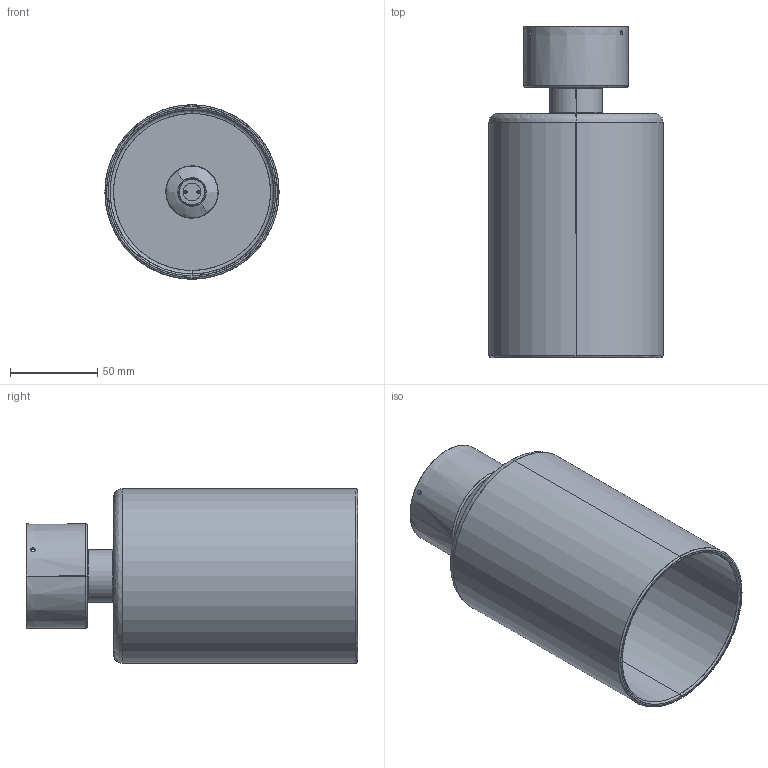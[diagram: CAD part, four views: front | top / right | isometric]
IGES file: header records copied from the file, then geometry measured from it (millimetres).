
Start section: SolidWorks IGES file using analytic representation for surfaces
Global section: file name: \\STORAGE\Tecnico Condiviso\1 FASCICOLI TECNICI\AXO DESIGN\AXO012 SPILLRAY LED INTEGRATO\DISEGNI\PL SPILLRAY\PLSPILXPXXCRINT-PER 3D.IGS; native system: SolidWorks 2024; preprocessor: SolidWorks 2024; author: tecnico3; date: 240527.185104; units: millimetre
Bounding box: 100 x 190 x 100 mm (x, y, z)
Surface area: 124083.3 mm2 (no closed solid volume)
Topology: 0 solids, 0 shells, 107 faces, 2036 edges, 2034 vertices
Faces by surface type: revolution 66, bspline 41
